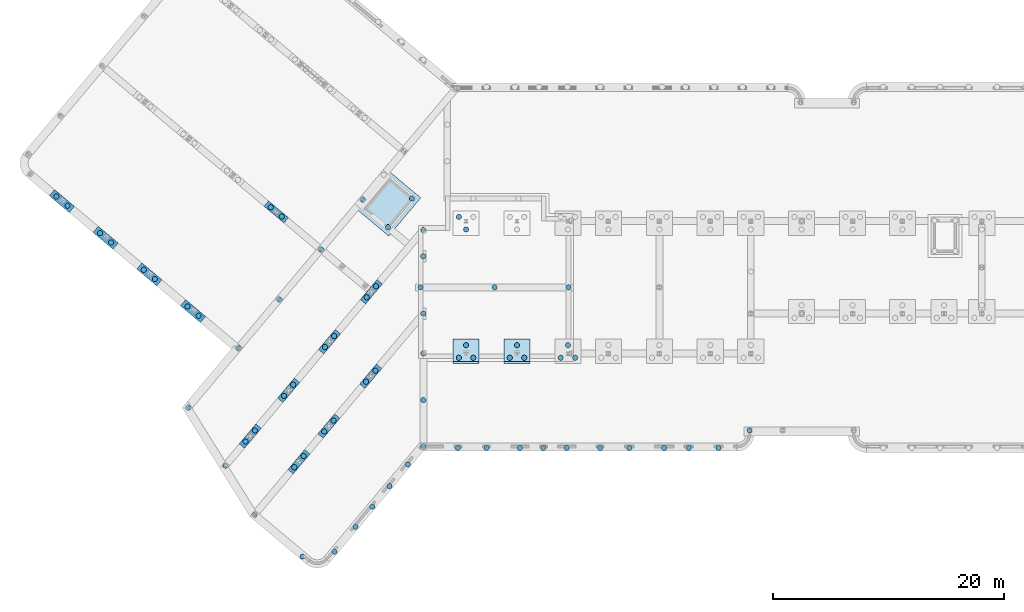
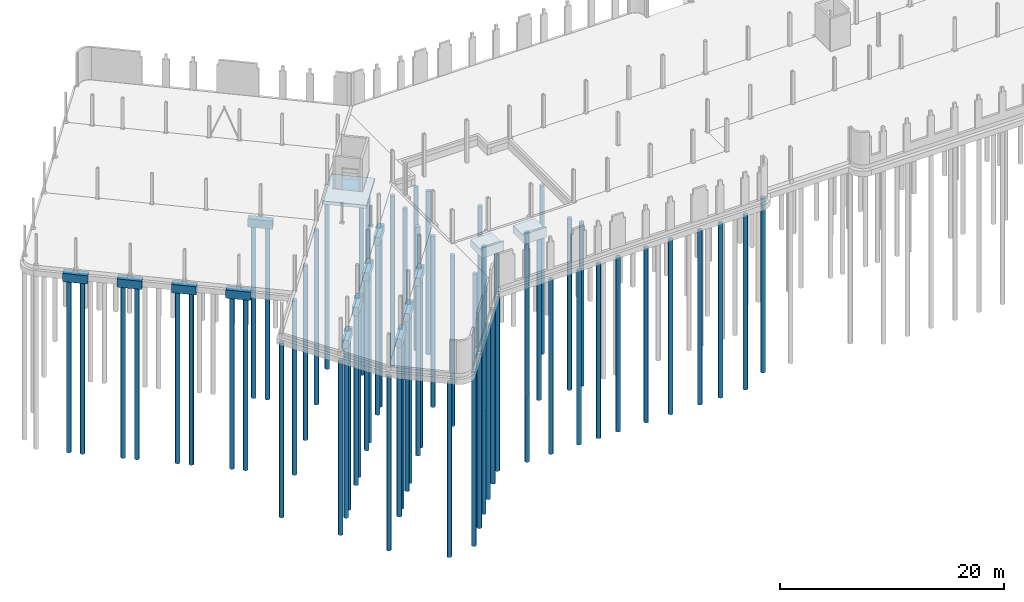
# One storey, part 1 of 26: 70 piles, 15 footings.
"""IFC2X3 building model written with IfcOpenShell, lengths in millimetres."""

from ifc_helpers import new_model, entity, si_unit, converted_unit, derived_unit, direction, frame, frame_2d, origin, place, context, subcontext, project, spatial, polyline, rectangle, circle, outline, extrude, source, transform, mapped, material, layer, layer_set, layer_usage, type_object, type_shapes, element, save


model = new_model("IFC2X3")

# Units and contexts
model_context = context("Model", 3, precision=0.01, world=origin(), true_north=direction((6.123031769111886e-17, 1.0)))
body_context = subcontext(model_context, "Body", "Model", "MODEL_VIEW")
ifc_project = project(units=[si_unit("LENGTHUNIT", "METRE", prefix="MILLI"), si_unit("AREAUNIT", "SQUARE_METRE"), si_unit("VOLUMEUNIT", "CUBIC_METRE"), derived_unit("MASSDENSITYUNIT", [(si_unit("MASSUNIT", "GRAM", prefix="KILO"), 1), (si_unit("LENGTHUNIT", "METRE"), -3)]), si_unit("MASSUNIT", "GRAM", prefix="KILO"), converted_unit("PLANEANGLEUNIT", "DEGREE", entity("IfcPlaneAngleMeasure", 0.017453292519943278), si_unit("PLANEANGLEUNIT", "RADIAN"), dimensions=[0, 0, 0, 0, 0, 0, 0])], contexts=[model_context])

# Site, building, storey
site_placement = place(None, origin())
site = spatial("IfcSite", under=ifc_project, at=site_placement, Name="Default", CompositionType="ELEMENT")
building_placement = place(site_placement, origin())
building = spatial("IfcBuilding", under=site, at=building_placement, Name="AT constructie", CompositionType="ELEMENT")
storey_placement = place(building_placement, origin())
storey = spatial("IfcBuildingStorey", under=building, at=storey_placement, Name="00 begane grond", CompositionType="ELEMENT", Elevation=-1.0828671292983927e-12)

# Footings
ifc_material_1 = material(Name="f2_beton ihwg_gen")
ifc_layer = layer(ifc_material_1, 350.0)
ifc_layer_set = layer_set([ifc_layer], Name="Foundation Slab:NLRS_13_SFO_fundatievloer_350_gen_AT")
ifc_layer_usage = layer_usage(ifc_layer_set, "AXIS3", "POSITIVE", 0.0)
type_product_1 = type_object("IfcTypeProduct", Name="NLRS_13_SFO_fundatievloer_350_gen_AT", material=ifc_layer_set)
footing_1_placement = place(storey_placement, origin())
element("IfcFooting", 1, at=footing_1_placement, inside=storey, type_object=type_product_1, material=ifc_layer_usage, Name="Foundation Slab:NLRS_13_SFO_fundatievloer_350_gen_AT", ObjectType="Foundation Slab:NLRS_13_SFO_fundatievloer_350_gen_AT", PredefinedType="NOTDEFINED", context=body_context, shape_type="SweptSolid", body=[
    extrude(rectangle(XDim=4309.999999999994, YDim=4039.999999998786, at=frame_2d((-2.2737367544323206e-13, 3.069544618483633e-12), x_axis=(1.0, 0.0))), frame((37995.738740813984, 32925.55843278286, -1200.0), z_axis=(0.0, 0.0, -1.0), x_axis=(-0.6427876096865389, -0.7660444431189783, 0.0)), (0.0, 0.0, 1.0), 350.0),
])
type_product_2 = type_object("IfcTypeProduct", Name="fundatiepoer_gen_lxbxh 2250x600x900", material=ifc_material_1)
shared_shape_1 = source(origin(), body_context, "Body", "SweptSolid", [
    extrude(rectangle(XDim=600.0000000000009, YDim=2250.000000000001, at=frame_2d((-3.0127011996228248e-12, 3.410605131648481e-13), x_axis=(1.0, 0.0))), frame((28439.40164975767, 32059.675337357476, -1350.0), z_axis=(0.0, 0.0, 1.0), x_axis=(-0.6427876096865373, -0.7660444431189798, 0.0)), (0.0, 0.0, 1.0), 899.9999999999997),
])
type_shapes(type_product_2, [shared_shape_1])
footing_2_placement = place(storey_placement, origin())
element("IfcFooting", 2, at=footing_2_placement, inside=storey, type_object=type_product_2, material=ifc_material_1, Name="NLRS_16_SFO_fundatiepoer_gen_AT:fundatiepoer_gen_lxbxh 2250x600x900", ObjectType="NLRS_16_SFO_fundatiepoer_gen_AT:fundatiepoer_gen_lxbxh 2250x600x900", PredefinedType="NOTDEFINED", context=body_context, shape_type="MappedRepresentation", body=[
    mapped(shared_shape_1, transform((0.0, 0.0, 0.0), scale=1.0)),
])
type_product_3 = type_object("IfcTypeProduct", Name="fundatiepoer_gen_lxbxh 2250x600x900", material=ifc_material_1)
shared_shape_2 = source(origin(), body_context, "Body", "SweptSolid", [
    extrude(rectangle(XDim=600.0000000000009, YDim=2250.0000000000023, at=frame_2d((-1.6200374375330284e-12, -1.2505552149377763e-12), x_axis=(1.0, 0.0))), frame((26191.2623006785, 12687.530529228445, -1350.0), z_axis=(0.0, 0.0, 1.0), x_axis=(0.7660444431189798, -0.6427876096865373, 0.0)), (0.0, 0.0, 1.0), 899.9999999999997),
])
type_shapes(type_product_3, [shared_shape_2])
footing_3_placement = place(storey_placement, origin())
element("IfcFooting", 3, at=footing_3_placement, inside=storey, type_object=type_product_3, material=ifc_material_1, Name="NLRS_16_SFO_fundatiepoer_gen_AT:fundatiepoer_gen_lxbxh 2250x600x900", ObjectType="NLRS_16_SFO_fundatiepoer_gen_AT:fundatiepoer_gen_lxbxh 2250x600x900", PredefinedType="NOTDEFINED", context=body_context, shape_type="MappedRepresentation", body=[
    mapped(shared_shape_2, transform((0.0, 0.0, 0.0), scale=1.0)),
])
type_product_4 = type_object("IfcTypeProduct", Name="fundatiepoer_gen_lxbxh 2250x600x900", material=ifc_material_1)
shared_shape_3 = source(origin(), body_context, "Body", "SweptSolid", [
    extrude(rectangle(XDim=600.0000000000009, YDim=2250.0000000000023, at=frame_2d((-1.6200374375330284e-12, -1.2505552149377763e-12), x_axis=(1.0, 0.0))), frame((29511.260304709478, 16644.150077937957, -1350.0), z_axis=(0.0, 0.0, 1.0), x_axis=(0.7660444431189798, -0.6427876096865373, 0.0)), (0.0, 0.0, 1.0), 899.9999999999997),
])
type_shapes(type_product_4, [shared_shape_3])
footing_4_placement = place(storey_placement, origin())
element("IfcFooting", 4, at=footing_4_placement, inside=storey, type_object=type_product_4, material=ifc_material_1, Name="NLRS_16_SFO_fundatiepoer_gen_AT:fundatiepoer_gen_lxbxh 2250x600x900", ObjectType="NLRS_16_SFO_fundatiepoer_gen_AT:fundatiepoer_gen_lxbxh 2250x600x900", PredefinedType="NOTDEFINED", context=body_context, shape_type="MappedRepresentation", body=[
    mapped(shared_shape_3, transform((0.0, 0.0, 0.0), scale=1.0)),
])
type_product_5 = type_object("IfcTypeProduct", Name="fundatiepoer_gen_lxbxh 2250x600x900", material=ifc_material_1)
shared_shape_4 = source(origin(), body_context, "Body", "SweptSolid", [
    extrude(rectangle(XDim=600.0000000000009, YDim=2250.000000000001, at=frame_2d((2.5579538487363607e-13, 3.069544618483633e-12), x_axis=(1.0, 0.0))), frame((33043.378219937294, 20853.564292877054, -1350.0), z_axis=(0.0, 0.0, 1.0), x_axis=(0.7660444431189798, -0.6427876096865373, 0.0)), (0.0, 0.0, 1.0), 899.9999999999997),
])
type_shapes(type_product_5, [shared_shape_4])
footing_5_placement = place(storey_placement, origin())
element("IfcFooting", 5, at=footing_5_placement, inside=storey, type_object=type_product_5, material=ifc_material_1, Name="NLRS_16_SFO_fundatiepoer_gen_AT:fundatiepoer_gen_lxbxh 2250x600x900", ObjectType="NLRS_16_SFO_fundatiepoer_gen_AT:fundatiepoer_gen_lxbxh 2250x600x900", PredefinedType="NOTDEFINED", context=body_context, shape_type="MappedRepresentation", body=[
    mapped(shared_shape_4, transform((0.0, 0.0, 0.0), scale=1.0)),
])
type_product_6 = type_object("IfcTypeProduct", Name="fundatiepoer_gen_lxbxh 2250x600x900", material=ifc_material_1)
shared_shape_5 = source(origin(), body_context, "Body", "SweptSolid", [
    extrude(rectangle(XDim=600.0000000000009, YDim=2250.000000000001, at=frame_2d((-3.0127011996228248e-12, 3.410605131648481e-13), x_axis=(1.0, 0.0))), frame((36659.058524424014, 25162.564285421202, -1350.0), z_axis=(0.0, 0.0, 1.0), x_axis=(0.7660444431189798, -0.6427876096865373, 0.0)), (0.0, 0.0, 1.0), 899.9999999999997),
])
type_shapes(type_product_6, [shared_shape_5])
footing_6_placement = place(storey_placement, origin())
element("IfcFooting", 6, at=footing_6_placement, inside=storey, type_object=type_product_6, material=ifc_material_1, Name="NLRS_16_SFO_fundatiepoer_gen_AT:fundatiepoer_gen_lxbxh 2250x600x900", ObjectType="NLRS_16_SFO_fundatiepoer_gen_AT:fundatiepoer_gen_lxbxh 2250x600x900", PredefinedType="NOTDEFINED", context=body_context, shape_type="MappedRepresentation", body=[
    mapped(shared_shape_5, transform((0.0, 0.0, 0.0), scale=1.0)),
])
type_product_7 = type_object("IfcTypeProduct", Name="fundatiepoer_gen_lxbxh 2250x600x900", material=ifc_material_1)
shared_shape_6 = source(origin(), body_context, "Body", "SweptSolid", [
    extrude(rectangle(XDim=600.000000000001, YDim=2250.0000000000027, at=frame_2d((1.6200374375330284e-12, 1.2505552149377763e-12), x_axis=(1.0, 0.0))), frame((30405.19460931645, 10475.383702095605, -1350.0), z_axis=(0.0, 0.0, 1.0), x_axis=(0.7660444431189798, -0.6427876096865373, 0.0)), (0.0, 0.0, 1.0), 899.9999999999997),
])
type_shapes(type_product_7, [shared_shape_6])
footing_7_placement = place(storey_placement, origin())
element("IfcFooting", 7, at=footing_7_placement, inside=storey, type_object=type_product_7, material=ifc_material_1, Name="NLRS_16_SFO_fundatiepoer_gen_AT:fundatiepoer_gen_lxbxh 2250x600x900", ObjectType="NLRS_16_SFO_fundatiepoer_gen_AT:fundatiepoer_gen_lxbxh 2250x600x900", PredefinedType="NOTDEFINED", context=body_context, shape_type="MappedRepresentation", body=[
    mapped(shared_shape_6, transform((0.0, 0.0, 0.0), scale=1.0)),
])
type_product_8 = type_object("IfcTypeProduct", Name="fundatiepoer_gen_lxbxh 2250x600x900", material=ifc_material_1)
shared_shape_7 = source(origin(), body_context, "Body", "SweptSolid", [
    extrude(rectangle(XDim=600.0000000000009, YDim=2250.0000000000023, at=frame_2d((-1.6200374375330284e-12, -1.2505552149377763e-12), x_axis=(1.0, 0.0))), frame((32989.804575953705, 13555.601915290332, -1350.0), z_axis=(0.0, 0.0, 1.0), x_axis=(0.7660444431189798, -0.6427876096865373, 0.0)), (0.0, 0.0, 1.0), 899.9999999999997),
])
type_shapes(type_product_8, [shared_shape_7])
footing_8_placement = place(storey_placement, origin())
element("IfcFooting", 8, at=footing_8_placement, inside=storey, type_object=type_product_8, material=ifc_material_1, Name="NLRS_16_SFO_fundatiepoer_gen_AT:fundatiepoer_gen_lxbxh 2250x600x900", ObjectType="NLRS_16_SFO_fundatiepoer_gen_AT:fundatiepoer_gen_lxbxh 2250x600x900", PredefinedType="NOTDEFINED", context=body_context, shape_type="MappedRepresentation", body=[
    mapped(shared_shape_7, transform((0.0, 0.0, 0.0), scale=1.0)),
])
type_product_9 = type_object("IfcTypeProduct", Name="fundatiepoer_gen_lxbxh 2250x600x900", material=ifc_material_1)
shared_shape_8 = source(origin(), body_context, "Body", "SweptSolid", [
    extrude(rectangle(XDim=600.000000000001, YDim=2250.000000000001, at=frame_2d((1.6200374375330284e-12, 1.2505552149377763e-12), x_axis=(1.0, 0.0))), frame((36605.484880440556, 17864.60190783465, -1350.0), z_axis=(0.0, 0.0, 1.0), x_axis=(0.7660444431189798, -0.6427876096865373, 0.0)), (0.0, 0.0, 1.0), 899.9999999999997),
])
type_shapes(type_product_9, [shared_shape_8])
footing_9_placement = place(storey_placement, origin())
element("IfcFooting", 9, at=footing_9_placement, inside=storey, type_object=type_product_9, material=ifc_material_1, Name="NLRS_16_SFO_fundatiepoer_gen_AT:fundatiepoer_gen_lxbxh 2250x600x900", ObjectType="NLRS_16_SFO_fundatiepoer_gen_AT:fundatiepoer_gen_lxbxh 2250x600x900", PredefinedType="NOTDEFINED", context=body_context, shape_type="MappedRepresentation", body=[
    mapped(shared_shape_8, transform((0.0, 0.0, 0.0), scale=1.0)),
])

# Piles
ifc_material_2 = material(Name="f2_beton ihwg_C30/37")
type_product_10 = type_object("IfcTypeProduct", Name="Type 4_a-1", material=ifc_material_2)
shared_shape_9 = source(origin(), body_context, "Body", "SweptSolid", [
    extrude(circle(Radius=225.00000000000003, at=frame_2d((1.4426688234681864e-26, -3.634975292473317e-13), x_axis=(1.0, 0.0))), frame((0.0, 0.0, -17816.0)), (0.0, 0.0, 1.0), 17815.999999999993),
])
type_shapes(type_product_10, [shared_shape_9])
for number, where, name in (
    (10, (44221.874631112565, 31631.887426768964, -2234.0), "NLRS_17_SFO_fundatiepaal_rond_gen_AT:Type 4_a-1"),
    (11, (44846.87463111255, 30549.355672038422, -2234.0), "NLRS_17_SFO_fundatiepaal_rond_gen_AT:Type 4_a-1"),
):
    element("IfcPile", number, at=place(storey_placement, frame(where)), inside=storey, type_object=type_product_10, material=ifc_material_2, Name=name, ObjectType="NLRS_17_SFO_fundatiepaal_rond_gen_AT:Type 4_a-1", PredefinedType="NOTDEFINED", context=body_context, shape_type="MappedRepresentation", body=[
        mapped(shared_shape_9, transform((0.0, 0.0, 0.0), scale=1.0)),
    ])
for number, where, z_axis, x_axis, name in (
    (12, (44221.87463111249, 19460.199590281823, -2234.0), (0.0, 0.0, 1.0), (-1.0, 0.0, 0.0), "NLRS_17_SFO_fundatiepaal_rond_gen_AT:Type 4_a-1"),
    (13, (45471.8746311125, 19460.199590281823, -2234.0), (0.0, 0.0, 1.0), (-1.0, 0.0, 0.0), "NLRS_17_SFO_fundatiepaal_rond_gen_AT:Type 4_a-1"),
    (14, (44846.87463111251, 20542.731345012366, -2234.0), (0.0, 0.0, 1.0), (-1.0, 0.0, 0.0), "NLRS_17_SFO_fundatiepaal_rond_gen_AT:Type 4_a-1"),
    (15, (48621.87463111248, 19460.19959028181, -2234.0), (0.0, 0.0, 1.0), (-1.0, 0.0, 0.0), "NLRS_17_SFO_fundatiepaal_rond_gen_AT:Type 4_a-1"),
    (16, (49871.87463111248, 19460.19959028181, -2234.0), (0.0, 0.0, 1.0), (-1.0, 0.0, 0.0), "NLRS_17_SFO_fundatiepaal_rond_gen_AT:Type 4_a-1"),
    (17, (49246.874631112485, 20542.73134501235, -2234.0), (0.0, 0.0, 1.0), (-1.0, 0.0, 0.0), "NLRS_17_SFO_fundatiepaal_rond_gen_AT:Type 4_a-1"),
    (18, (53021.87463111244, 19460.199590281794, -2234.0), (0.0, 0.0, 1.0), (-1.0, 0.0, 0.0), "NLRS_17_SFO_fundatiepaal_rond_gen_AT:Type 4_a-1"),
    (19, (54271.87463111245, 19460.199590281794, -2234.0), (0.0, 0.0, 1.0), (-1.0, 0.0, 0.0), "NLRS_17_SFO_fundatiepaal_rond_gen_AT:Type 4_a-1"),
    (20, (53646.874631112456, 20542.731345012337, -2234.0), (0.0, 0.0, 1.0), (-1.0, 0.0, 0.0), "NLRS_17_SFO_fundatiepaal_rond_gen_AT:Type 4_a-1"),
):
    element("IfcPile", number, at=place(storey_placement, frame(where, z_axis=z_axis, x_axis=x_axis)), inside=storey, type_object=type_product_10, material=ifc_material_2, Name=name, ObjectType="NLRS_17_SFO_fundatiepaal_rond_gen_AT:Type 4_a-1", PredefinedType="NOTDEFINED", context=body_context, shape_type="MappedRepresentation", body=[
        mapped(shared_shape_9, transform((0.0, 0.0, 0.0), scale=1.0)),
    ])
type_product_11 = type_object("IfcTypeProduct", Name="Type 4_a-2", material=ifc_material_2)
shared_shape_10 = source(origin(), body_context, "Body", "SweptSolid", [
    extrude(circle(Radius=225.00000000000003, at=frame_2d((1.4426688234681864e-26, -3.634975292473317e-13), x_axis=(1.0, 0.0))), frame((0.0, 0.0, -18316.0)), (0.0, 0.0, 1.0), 18315.999999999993),
])
type_shapes(type_product_11, [shared_shape_10])
for number, where, name in (
    (21, (47309.37463111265, 25546.043508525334, -1734.0), "NLRS_17_SFO_fundatiepaal_rond_gen_AT:Type 4_a-2"),
    (22, (53696.87463111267, 25546.043508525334, -1734.0), "NLRS_17_SFO_fundatiepaal_rond_gen_AT:Type 4_a-2"),
    (23, (40921.87463111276, 25546.043508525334, -1734.0), "NLRS_17_SFO_fundatiepaal_rond_gen_AT:Type 4_a-2"),
):
    element("IfcPile", number, at=place(storey_placement, frame(where)), inside=storey, type_object=type_product_11, material=ifc_material_2, Name=name, ObjectType="NLRS_17_SFO_fundatiepaal_rond_gen_AT:Type 4_a-2", PredefinedType="NOTDEFINED", context=body_context, shape_type="MappedRepresentation", body=[
        mapped(shared_shape_10, transform((0.0, 0.0, 0.0), scale=1.0)),
    ])

# Footings
type_product_12 = type_object("IfcTypeProduct", Name="fundatiepoer_gen_lxbxh 2250x2100x1100", material=ifc_material_1)
shared_shape_11 = source(origin(), body_context, "Body", "SweptSolid", [
    extrude(outline(polyline([(-633.3333333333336, -1338.052027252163), (166.6666666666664, -1338.052027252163), (166.6666666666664, 576.1040545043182), (466.6666666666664, 576.1040545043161), (466.6666666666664, 761.9479727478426), (-633.3333333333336, 761.9479727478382), (-633.3333333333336, -1338.052027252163)])), frame((43721.874631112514, 19722.14756302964, -1620.6666666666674), z_axis=(1.0, 0.0, 0.0), x_axis=(0.0, 0.0, 1.0)), (0.0, 0.0, 1.0), 2249.9999999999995),
])
type_shapes(type_product_12, [shared_shape_11])
footing_10_placement = place(storey_placement, origin())
element("IfcFooting", 24, at=footing_10_placement, inside=storey, type_object=type_product_12, material=ifc_material_1, Name="NLRS_16_SFO_fundatiepoer_gen_AT:fundatiepoer_gen_lxbxh 2250x2100x1100", ObjectType="NLRS_16_SFO_fundatiepoer_gen_AT:fundatiepoer_gen_lxbxh 2250x2100x1100", PredefinedType="NOTDEFINED", context=body_context, shape_type="MappedRepresentation", body=[
    mapped(shared_shape_11, transform((0.0, 0.0, 0.0), scale=1.0)),
])
type_product_13 = type_object("IfcTypeProduct", Name="fundatiepoer_gen_lxbxh 2250x2100x1100", material=ifc_material_1)
shared_shape_12 = source(origin(), body_context, "Body", "SweptSolid", [
    extrude(outline(polyline([(-633.3333333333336, -1338.0520272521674), (166.6666666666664, -1338.0520272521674), (166.6666666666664, 576.1040545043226), (466.6666666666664, 576.1040545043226), (466.6666666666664, 761.9479727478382), (-633.3333333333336, 761.9479727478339), (-633.3333333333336, -1338.0520272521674)])), frame((48121.874631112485, 19722.147563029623, -1620.6666666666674), z_axis=(1.0, 0.0, 0.0), x_axis=(0.0, 0.0, 1.0)), (0.0, 0.0, 1.0), 2249.9999999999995),
])
type_shapes(type_product_13, [shared_shape_12])
footing_11_placement = place(storey_placement, origin())
element("IfcFooting", 25, at=footing_11_placement, inside=storey, type_object=type_product_13, material=ifc_material_1, Name="NLRS_16_SFO_fundatiepoer_gen_AT:fundatiepoer_gen_lxbxh 2250x2100x1100", ObjectType="NLRS_16_SFO_fundatiepoer_gen_AT:fundatiepoer_gen_lxbxh 2250x2100x1100", PredefinedType="NOTDEFINED", context=body_context, shape_type="MappedRepresentation", body=[
    mapped(shared_shape_12, transform((0.0, 0.0, 0.0), scale=1.0)),
])

# Piles
type_product_14 = type_object("IfcTypeProduct", Name="Type 4_a-4", material=ifc_material_2)
shared_shape_13 = source(origin(), body_context, "Body", "SweptSolid", [
    extrude(circle(Radius=225.00000000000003, at=frame_2d((1.4426688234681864e-26, -3.634975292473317e-13), x_axis=(1.0, 0.0))), frame((0.0, 0.0, -18520.0)), (0.0, 0.0, 1.0), 18519.999999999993),
])
type_shapes(type_product_14, [shared_shape_13])
for number, where, z_axis, x_axis, name in (
    (26, (40163.360010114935, 33211.024775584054, -1530.0), (0.0, 0.0, 1.0), (0.7660444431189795, -0.6427876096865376, 0.0), "NLRS_17_SFO_fundatiepaal_rond_gen_AT:Type 4_a-4"),
    (27, (38091.01275648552, 30741.297490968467, -1530.0), (0.0, 0.0, 1.0), (0.7660444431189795, -0.6427876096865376, 0.0), "NLRS_17_SFO_fundatiepaal_rond_gen_AT:Type 4_a-4"),
    (28, (35924.86546377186, 33116.31978516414, -1530.0), (0.0, 0.0, 1.0), (0.7660444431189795, -0.6427876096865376, 0.0), "NLRS_17_SFO_fundatiepaal_rond_gen_AT:Type 4_a-4"),
):
    element("IfcPile", number, at=place(storey_placement, frame(where, z_axis=z_axis, x_axis=x_axis)), inside=storey, type_object=type_product_14, material=ifc_material_2, Name=name, ObjectType="NLRS_17_SFO_fundatiepaal_rond_gen_AT:Type 4_a-4", PredefinedType="NOTDEFINED", context=body_context, shape_type="MappedRepresentation", body=[
        mapped(shared_shape_13, transform((0.0, 0.0, 0.0), scale=1.0)),
    ])
type_product_15 = type_object("IfcTypeProduct", Name="Type 4_a-5", material=ifc_material_2)
shared_shape_14 = source(origin(), body_context, "Body", "SweptSolid", [
    extrude(circle(Radius=225.00000000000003, at=frame_2d((1.4426688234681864e-26, -3.634975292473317e-13), x_axis=(1.0, 0.0))), frame((0.0, 0.0, -18616.0)), (0.0, 0.0, 1.0), 18615.999999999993),
])
type_shapes(type_product_15, [shared_shape_14])
for number, where, name in (
    (29, (41146.874631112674, 28231.043508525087, -1434.0), "NLRS_17_SFO_fundatiepaal_rond_gen_AT:Type 4_a-5"),
    (30, (41146.874631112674, 30502.04350852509, -1434.0), "NLRS_17_SFO_fundatiepaal_rond_gen_AT:Type 4_a-5"),
    (31, (41146.87463111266, 19821.0435085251, -1434.0), "NLRS_17_SFO_fundatiepaal_rond_gen_AT:Type 4_a-5"),
    (32, (41146.87463111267, 23271.043508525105, -1434.0), "NLRS_17_SFO_fundatiepaal_rond_gen_AT:Type 4_a-5"),
):
    element("IfcPile", number, at=place(storey_placement, frame(where)), inside=storey, type_object=type_product_15, material=ifc_material_2, Name=name, ObjectType="NLRS_17_SFO_fundatiepaal_rond_gen_AT:Type 4_a-5", PredefinedType="NOTDEFINED", context=body_context, shape_type="MappedRepresentation", body=[
        mapped(shared_shape_14, transform((0.0, 0.0, 0.0), scale=1.0)),
    ])
type_product_16 = type_object("IfcTypeProduct", Name="Type 4_a-6", material=ifc_material_2)
shared_shape_15 = source(origin(), body_context, "Body", "SweptSolid", [
    extrude(circle(Radius=225.00000000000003, at=frame_2d((1.4426688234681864e-26, -3.634975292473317e-13), x_axis=(1.0, 0.0))), frame((0.0, 0.0, -18720.0)), (0.0, 0.0, 1.0), 18719.999999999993),
])
type_shapes(type_product_16, [shared_shape_15])
for number, where, z_axis, x_axis, name in (
    (33, (27960.62387280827, 32461.41759341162, -1330.0), (0.0, 0.0, 1.0), (0.7660444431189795, -0.6427876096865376, 0.0), "NLRS_17_SFO_fundatiepaal_rond_gen_AT:Type 4_a-6"),
    (34, (28918.179426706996, 31657.93308130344, -1330.0), (0.0, 0.0, 1.0), (0.7660444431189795, -0.6427876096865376, 0.0), "NLRS_17_SFO_fundatiepaal_rond_gen_AT:Type 4_a-6"),
    (35, (29913.00256076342, 17122.927854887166, -1330.0), (0.0, 0.0, 1.0), (0.7660444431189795, -0.6427876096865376, 0.0), "NLRS_17_SFO_fundatiepaal_rond_gen_AT:Type 4_a-6"),
    (36, (29109.518048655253, 16165.372300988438, -1330.0), (0.0, 0.0, 1.0), (0.7660444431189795, -0.6427876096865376, 0.0), "NLRS_17_SFO_fundatiepaal_rond_gen_AT:Type 4_a-6"),
    (37, (26593.00455673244, 13166.308306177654, -1330.0), (0.0, 0.0, 1.0), (0.7660444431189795, -0.6427876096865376, 0.0), "NLRS_17_SFO_fundatiepaal_rond_gen_AT:Type 4_a-6"),
    (38, (25789.520044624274, 12208.752752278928, -1330.0), (0.0, 0.0, 1.0), (0.7660444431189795, -0.6427876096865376, 0.0), "NLRS_17_SFO_fundatiepaal_rond_gen_AT:Type 4_a-6"),
    (39, (30808.504822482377, 10956.030097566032, -1330.0), (0.0, 0.0, 1.0), (0.7660444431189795, -0.6427876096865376, 0.0), "NLRS_17_SFO_fundatiepaal_rond_gen_AT:Type 4_a-6"),
    (40, (30005.02031037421, 9998.474543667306, -1330.0), (0.0, 0.0, 1.0), (0.7660444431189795, -0.6427876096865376, 0.0), "NLRS_17_SFO_fundatiepaal_rond_gen_AT:Type 4_a-6"),
    (41, (33391.54683200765, 14034.379692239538, -1330.0), (0.0, 0.0, 1.0), (0.7660444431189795, -0.6427876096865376, 0.0), "NLRS_17_SFO_fundatiepaal_rond_gen_AT:Type 4_a-6"),
    (42, (32588.062319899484, 13076.824138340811, -1330.0), (0.0, 0.0, 1.0), (0.7660444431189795, -0.6427876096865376, 0.0), "NLRS_17_SFO_fundatiepaal_rond_gen_AT:Type 4_a-6"),
    (43, (37007.227136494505, 18343.37968478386, -1330.0), (0.0, 0.0, 1.0), (0.7660444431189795, -0.6427876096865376, 0.0), "NLRS_17_SFO_fundatiepaal_rond_gen_AT:Type 4_a-6"),
    (44, (36203.74262438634, 17385.824130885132, -1330.0), (0.0, 0.0, 1.0), (0.7660444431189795, -0.6427876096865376, 0.0), "NLRS_17_SFO_fundatiepaal_rond_gen_AT:Type 4_a-6"),
    (45, (33445.12047599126, 21332.342069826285, -1330.0), (0.0, 0.0, 1.0), (0.7660444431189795, -0.6427876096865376, 0.0), "NLRS_17_SFO_fundatiepaal_rond_gen_AT:Type 4_a-6"),
    (46, (32641.63596388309, 20374.786515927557, -1330.0), (0.0, 0.0, 1.0), (0.7660444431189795, -0.6427876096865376, 0.0), "NLRS_17_SFO_fundatiepaal_rond_gen_AT:Type 4_a-6"),
    (47, (37060.80078047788, 25641.342062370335, -1330.0), (0.0, 0.0, 1.0), (0.7660444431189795, -0.6427876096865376, 0.0), "NLRS_17_SFO_fundatiepaal_rond_gen_AT:Type 4_a-6"),
    (48, (36257.316268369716, 24683.78650847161, -1330.0), (0.0, 0.0, 1.0), (0.7660444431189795, -0.6427876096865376, 0.0), "NLRS_17_SFO_fundatiepaal_rond_gen_AT:Type 4_a-6"),
    (49, (13217.203461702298, 30230.330284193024, -1330.0), (0.0, 0.0, 1.0), (0.7660444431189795, -0.6427876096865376, 0.0), "NLRS_17_SFO_fundatiepaal_rond_gen_AT:Type 4_a-6"),
    (50, (14174.759015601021, 29426.845772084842, -1330.0), (0.0, 0.0, 1.0), (0.7660444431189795, -0.6427876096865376, 0.0), "NLRS_17_SFO_fundatiepaal_rond_gen_AT:Type 4_a-6"),
    (51, (9440.604357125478, 33399.27319994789, -1330.0), (0.0, 0.0, 1.0), (0.7660444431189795, -0.6427876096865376, 0.0), "NLRS_17_SFO_fundatiepaal_rond_gen_AT:Type 4_a-6"),
    (52, (10398.159911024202, 32595.788687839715, -1330.0), (0.0, 0.0, 1.0), (0.7660444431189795, -0.6427876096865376, 0.0), "NLRS_17_SFO_fundatiepaal_rond_gen_AT:Type 4_a-6"),
    (53, (16993.80256627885, 27061.387368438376, -1330.0), (0.0, 0.0, 1.0), (0.7660444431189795, -0.6427876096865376, 0.0), "NLRS_17_SFO_fundatiepaal_rond_gen_AT:Type 4_a-6"),
    (54, (17951.35812017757, 26257.902856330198, -1330.0), (0.0, 0.0, 1.0), (0.7660444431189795, -0.6427876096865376, 0.0), "NLRS_17_SFO_fundatiepaal_rond_gen_AT:Type 4_a-6"),
    (55, (20770.40167085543, 23892.444452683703, -1330.0), (0.0, 0.0, 1.0), (0.7660444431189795, -0.6427876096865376, 0.0), "NLRS_17_SFO_fundatiepaal_rond_gen_AT:Type 4_a-6"),
    (56, (21727.95722475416, 23088.959940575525, -1330.0), (0.0, 0.0, 1.0), (0.7660444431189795, -0.6427876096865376, 0.0), "NLRS_17_SFO_fundatiepaal_rond_gen_AT:Type 4_a-6"),
):
    element("IfcPile", number, at=place(storey_placement, frame(where, z_axis=z_axis, x_axis=x_axis)), inside=storey, type_object=type_product_16, material=ifc_material_2, Name=name, ObjectType="NLRS_17_SFO_fundatiepaal_rond_gen_AT:Type 4_a-6", PredefinedType="NOTDEFINED", context=body_context, shape_type="MappedRepresentation", body=[
        mapped(shared_shape_15, transform((0.0, 0.0, 0.0), scale=1.0)),
    ])
type_product_17 = type_object("IfcTypeProduct", Name="Type 4_a-7", material=ifc_material_2)
shared_shape_16 = source(origin(), body_context, "Body", "SweptSolid", [
    extrude(circle(Radius=225.00000000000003, at=frame_2d((1.4426688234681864e-26, -3.634975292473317e-13), x_axis=(1.0, 0.0))), frame((0.0, 0.0, -19020.0)), (0.0, 0.0, 1.0), 19019.999999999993),
])
type_shapes(type_product_17, [shared_shape_16])
for number, where, z_axis, x_axis, name in (
    (57, (69345.37462610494, 13185.043511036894, -1030.0), (0.0, 0.0, 1.0), (-1.0, 0.0, 0.0), "NLRS_17_SFO_fundatiepaal_rond_gen_AT:Type 4_a-7"),
    (58, (25163.958090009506, 20291.9697629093, -1030.0), (0.0, 0.0, 1.0), (-0.7660444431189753, 0.6427876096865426, 0.0), "NLRS_17_SFO_fundatiepaal_rond_gen_AT:Type 4_a-7"),
    (59, (20837.9974768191, 15136.490660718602, -1030.0), (0.0, 0.0, 1.0), (-0.7660444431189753, 0.6427876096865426, 0.0), "NLRS_17_SFO_fundatiepaal_rond_gen_AT:Type 4_a-7"),
    (60, (28696.07600523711, 24501.383977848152, -1030.0), (0.0, 0.0, 1.0), (-0.7660444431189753, 0.6427876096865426, 0.0), "NLRS_17_SFO_fundatiepaal_rond_gen_AT:Type 4_a-7"),
    (61, (32311.75630972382, 28810.383970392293, -1030.0), (0.0, 0.0, 1.0), (-0.7660444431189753, 0.6427876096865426, 0.0), "NLRS_17_SFO_fundatiepaal_rond_gen_AT:Type 4_a-7"),
    (62, (24047.565622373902, 10132.772311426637, -1030.0), (0.0, 0.0, 1.0), (-0.7660444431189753, 0.6427876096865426, 0.0), "NLRS_17_SFO_fundatiepaal_rond_gen_AT:Type 4_a-7"),
    (63, (26562.89266050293, 5896.306550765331, -1030.0), (0.0, 0.0, 1.0), (-0.7660444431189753, 0.6427876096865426, 0.0), "NLRS_17_SFO_fundatiepaal_rond_gen_AT:Type 4_a-7"),
    (64, (30714.72437748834, 2280.007248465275, -1030.0), (0.0, 0.0, 1.0), (-0.7660444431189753, 0.6427876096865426, 0.0), "NLRS_17_SFO_fundatiepaal_rond_gen_AT:Type 4_a-7"),
    (65, (33474.71641733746, 2698.9272169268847, -1030.0), (0.0, 0.0, 1.0), (-0.7660444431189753, 0.6427876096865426, 0.0), "NLRS_17_SFO_fundatiepaal_rond_gen_AT:Type 4_a-7"),
    (66, (35280.94960055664, 4851.512102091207, -1030.0), (0.0, 0.0, 1.0), (-0.7660444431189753, 0.6427876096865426, 0.0), "NLRS_17_SFO_fundatiepaal_rond_gen_AT:Type 4_a-7"),
    (67, (36739.33099026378, 6589.54336264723, -1030.0), (0.0, 0.0, 1.0), (-0.7660444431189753, 0.6427876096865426, 0.0), "NLRS_17_SFO_fundatiepaal_rond_gen_AT:Type 4_a-7"),
    (68, (38227.384306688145, 8362.936248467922, -1030.0), (0.0, 0.0, 1.0), (-0.7660444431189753, 0.6427876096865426, 0.0), "NLRS_17_SFO_fundatiepaal_rond_gen_AT:Type 4_a-7"),
    (69, (39808.641826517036, 10247.40557854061, -1030.0), (0.0, 0.0, 1.0), (-0.7660444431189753, 0.6427876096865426, 0.0), "NLRS_17_SFO_fundatiepaal_rond_gen_AT:Type 4_a-7"),
    (70, (66661.8746311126, 11671.043508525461, -1030.0), (0.0, 0.0, 1.0), (-1.0, 0.0, 0.0), "NLRS_17_SFO_fundatiepaal_rond_gen_AT:Type 4_a-7"),
    (71, (64091.87463111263, 11671.04350852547, -1030.0), (0.0, 0.0, 1.0), (-1.0, 0.0, 0.0), "NLRS_17_SFO_fundatiepaal_rond_gen_AT:Type 4_a-7"),
    (72, (61961.87463111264, 11671.043508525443, -1030.0), (0.0, 0.0, 1.0), (-1.0, 0.0, 0.0), "NLRS_17_SFO_fundatiepaal_rond_gen_AT:Type 4_a-7"),
    (73, (58951.87463111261, 11671.043508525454, -1030.0), (0.0, 0.0, 1.0), (-1.0, 0.0, 0.0), "NLRS_17_SFO_fundatiepaal_rond_gen_AT:Type 4_a-7"),
    (74, (56436.87463111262, 11671.043508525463, -1030.0), (0.0, 0.0, 1.0), (-1.0, 0.0, 0.0), "NLRS_17_SFO_fundatiepaal_rond_gen_AT:Type 4_a-7"),
    (75, (53536.874631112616, 11671.043508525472, -1030.0), (0.0, 0.0, 1.0), (-1.0, 0.0, 0.0), "NLRS_17_SFO_fundatiepaal_rond_gen_AT:Type 4_a-7"),
    (76, (51516.874631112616, 11671.043508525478, -1030.0), (0.0, 0.0, 1.0), (-1.0, 0.0, 0.0), "NLRS_17_SFO_fundatiepaal_rond_gen_AT:Type 4_a-7"),
    (77, (46596.87463111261, 11671.043508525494, -1030.0), (0.0, 0.0, 1.0), (-1.0, 0.0, 0.0), "NLRS_17_SFO_fundatiepaal_rond_gen_AT:Type 4_a-7"),
    (78, (44136.87463111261, 11671.043508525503, -1030.0), (0.0, 0.0, 1.0), (-1.0, 0.0, 0.0), "NLRS_17_SFO_fundatiepaal_rond_gen_AT:Type 4_a-7"),
    (79, (49496.87463111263, 11671.043508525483, -1030.0), (0.0, 0.0, 1.0), (-1.0, 0.0, 0.0), "NLRS_17_SFO_fundatiepaal_rond_gen_AT:Type 4_a-7"),
    (80, (41146.874631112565, 11772.543508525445, -1030.0), (0.0, 0.0, 1.0), (-1.0, 0.0, 0.0), "NLRS_17_SFO_fundatiepaal_rond_gen_AT:Type 4_a-7"),
    (81, (41146.87463111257, 15796.793508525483, -1030.0), (0.0, 0.0, 1.0), (-1.0, 0.0, 0.0), "NLRS_17_SFO_fundatiepaal_rond_gen_AT:Type 4_a-7"),
):
    element("IfcPile", number, at=place(storey_placement, frame(where, z_axis=z_axis, x_axis=x_axis)), inside=storey, type_object=type_product_17, material=ifc_material_2, Name=name, ObjectType="NLRS_17_SFO_fundatiepaal_rond_gen_AT:Type 4_a-7", PredefinedType="NOTDEFINED", context=body_context, shape_type="MappedRepresentation", body=[
        mapped(shared_shape_16, transform((0.0, 0.0, 0.0), scale=1.0)),
    ])

# Footings
type_product_18 = type_object("IfcTypeProduct", Name="fundatiepoer_gen_lxbxh 2250x700x900", material=ifc_material_1)
shared_shape_17 = source(origin(), body_context, "Body", "SweptSolid", [
    extrude(rectangle(XDim=700.0000000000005, YDim=2249.999999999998, at=frame_2d((9.379164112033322e-13, 2.1600499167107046e-12), x_axis=(1.0, 0.0))), frame((13695.981238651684, 29828.5880281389, -1350.0), z_axis=(0.0, 0.0, 1.0), x_axis=(-0.64278760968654, -0.7660444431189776, 0.0)), (0.0, 0.0, 1.0), 899.9999999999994),
])
type_shapes(type_product_18, [shared_shape_17])
footing_12_placement = place(storey_placement, origin())
element("IfcFooting", 82, at=footing_12_placement, inside=storey, type_object=type_product_18, material=ifc_material_1, Name="NLRS_16_SFO_fundatiepoer_gen_AT:fundatiepoer_gen_lxbxh 2250x700x900", ObjectType="NLRS_16_SFO_fundatiepoer_gen_AT:fundatiepoer_gen_lxbxh 2250x700x900", PredefinedType="NOTDEFINED", context=body_context, shape_type="MappedRepresentation", body=[
    mapped(shared_shape_17, transform((0.0, 0.0, 0.0), scale=1.0)),
])
type_product_19 = type_object("IfcTypeProduct", Name="fundatiepoer_gen_lxbxh 2250x700x900", material=ifc_material_1)
shared_shape_18 = source(origin(), body_context, "Body", "SweptSolid", [
    extrude(rectangle(XDim=699.9999999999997, YDim=2249.9999999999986, at=frame_2d((-1.9610979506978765e-12, -1.0231815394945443e-12), x_axis=(1.0, 0.0))), frame((9919.382134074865, 32997.53094389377, -1350.0), z_axis=(0.0, 0.0, 1.0), x_axis=(-0.642787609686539, -0.7660444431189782, 0.0)), (0.0, 0.0, 1.0), 899.9999999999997),
])
type_shapes(type_product_19, [shared_shape_18])
footing_13_placement = place(storey_placement, origin())
element("IfcFooting", 83, at=footing_13_placement, inside=storey, type_object=type_product_19, material=ifc_material_1, Name="NLRS_16_SFO_fundatiepoer_gen_AT:fundatiepoer_gen_lxbxh 2250x700x900", ObjectType="NLRS_16_SFO_fundatiepoer_gen_AT:fundatiepoer_gen_lxbxh 2250x700x900", PredefinedType="NOTDEFINED", context=body_context, shape_type="MappedRepresentation", body=[
    mapped(shared_shape_18, transform((0.0, 0.0, 0.0), scale=1.0)),
])
type_product_20 = type_object("IfcTypeProduct", Name="fundatiepoer_gen_lxbxh 2250x700x900", material=ifc_material_1)
shared_shape_19 = source(origin(), body_context, "Body", "SweptSolid", [
    extrude(rectangle(XDim=700.0000000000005, YDim=2249.999999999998, at=frame_2d((9.379164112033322e-13, 2.1600499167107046e-12), x_axis=(1.0, 0.0))), frame((17472.580343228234, 26659.645112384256, -1350.0), z_axis=(0.0, 0.0, 1.0), x_axis=(-0.64278760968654, -0.7660444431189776, 0.0)), (0.0, 0.0, 1.0), 899.9999999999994),
])
type_shapes(type_product_20, [shared_shape_19])
footing_14_placement = place(storey_placement, origin())
element("IfcFooting", 84, at=footing_14_placement, inside=storey, type_object=type_product_20, material=ifc_material_1, Name="NLRS_16_SFO_fundatiepoer_gen_AT:fundatiepoer_gen_lxbxh 2250x700x900", ObjectType="NLRS_16_SFO_fundatiepoer_gen_AT:fundatiepoer_gen_lxbxh 2250x700x900", PredefinedType="NOTDEFINED", context=body_context, shape_type="MappedRepresentation", body=[
    mapped(shared_shape_19, transform((0.0, 0.0, 0.0), scale=1.0)),
])
type_product_21 = type_object("IfcTypeProduct", Name="fundatiepoer_gen_lxbxh 2250x700x900", material=ifc_material_1)
shared_shape_20 = source(origin(), body_context, "Body", "SweptSolid", [
    extrude(rectangle(XDim=700.0000000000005, YDim=2249.9999999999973, at=frame_2d((1.6200374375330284e-12, 1.5916157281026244e-12), x_axis=(1.0, 0.0))), frame((21249.179447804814, 23490.70219662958, -1350.0), z_axis=(0.0, 0.0, 1.0), x_axis=(-0.64278760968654, -0.7660444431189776, 0.0)), (0.0, 0.0, 1.0), 899.9999999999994),
])
type_shapes(type_product_21, [shared_shape_20])
footing_15_placement = place(storey_placement, origin())
element("IfcFooting", 85, at=footing_15_placement, inside=storey, type_object=type_product_21, material=ifc_material_1, Name="NLRS_16_SFO_fundatiepoer_gen_AT:fundatiepoer_gen_lxbxh 2250x700x900", ObjectType="NLRS_16_SFO_fundatiepoer_gen_AT:fundatiepoer_gen_lxbxh 2250x700x900", PredefinedType="NOTDEFINED", context=body_context, shape_type="MappedRepresentation", body=[
    mapped(shared_shape_20, transform((0.0, 0.0, 0.0), scale=1.0)),
])

save(model, "model.ifc")
